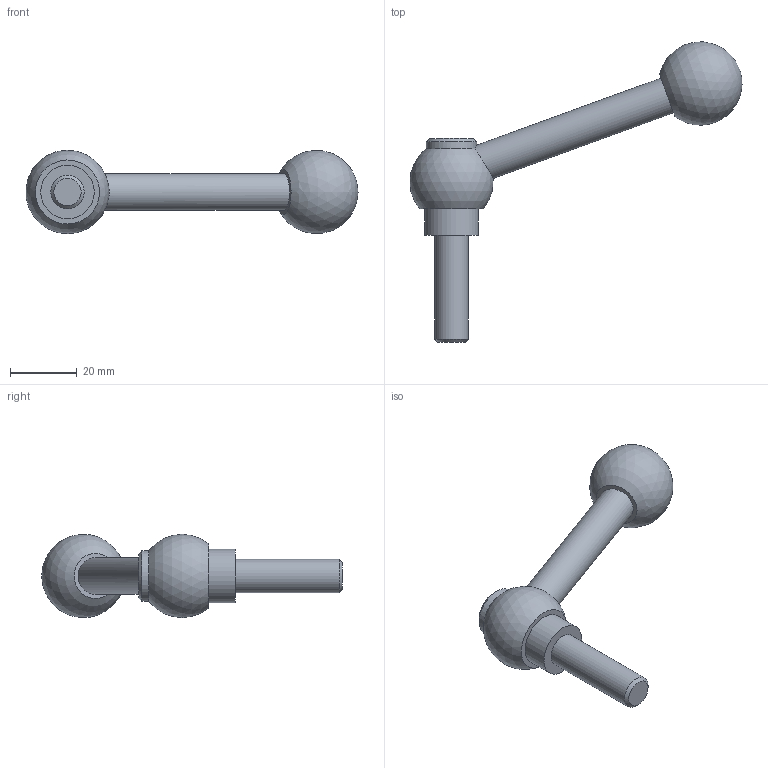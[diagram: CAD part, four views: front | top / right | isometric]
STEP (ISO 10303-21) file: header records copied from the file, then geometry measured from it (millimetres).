
FILE_DESCRIPTION( ( 'STEP AP203' ), '1' );
FILE_NAME( 'C:/Temp/Ganter_Step_05_03_2020/data/2_1/gn_6337_3/gn_6337_3_ms/gn_6337_3_ms_n/Adjustable clamping lever with bolt GN 6337.3-25-M10-32-N.stp', '2020-03-05T11:41:18', ( 'License CC BY-ND 4.0' ), ( 'CADENAS' ), ' ', 'PARTsolutions', ' ' );
FILE_SCHEMA( ( 'CONFIG_CONTROL_DESIGN' ) );
Length unit declared in the file: millimetre
Products named in the file (1): _Adjustable clamping lever with bolt GN 6337.3-25-M10-32-N
Bounding box: 99.42 x 89.98 x 25 mm (x, y, z)
Volume: 25407.6 mm3; surface area: 7158.4 mm2
Topology: 1 solids, 1 shells, 13 faces, 27 edges, 18 vertices
Faces by surface type: plane 5, cylinder 4, cone 2, sphere 2
Full cylindrical faces by diameter (mm): 10 x1, 11 x1, 15 x1, 16 x1
Entity records: 374 total; most frequent: CARTESIAN_POINT 112, DIRECTION 50, ORIENTED_EDGE 26, AXIS2_PLACEMENT_3D 25, EDGE_LOOP 23, FACE_OUTER_BOUND 18, ADVANCED_FACE 13, VERTEX_POINT 13
